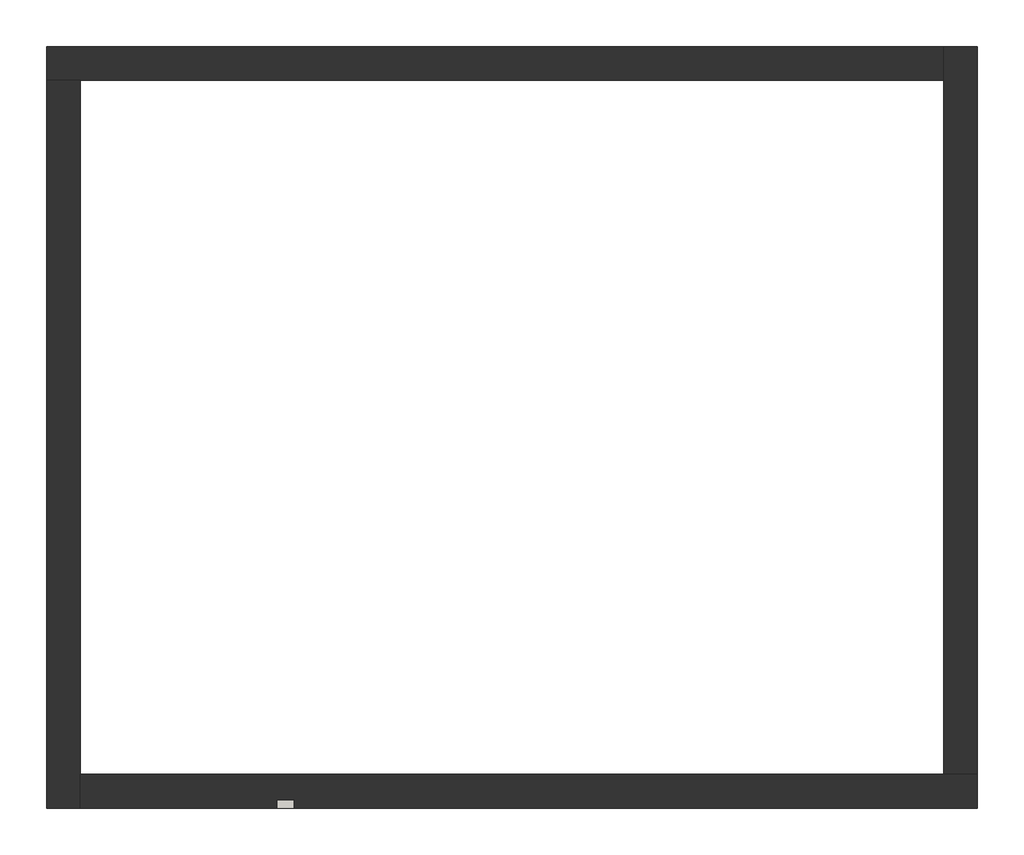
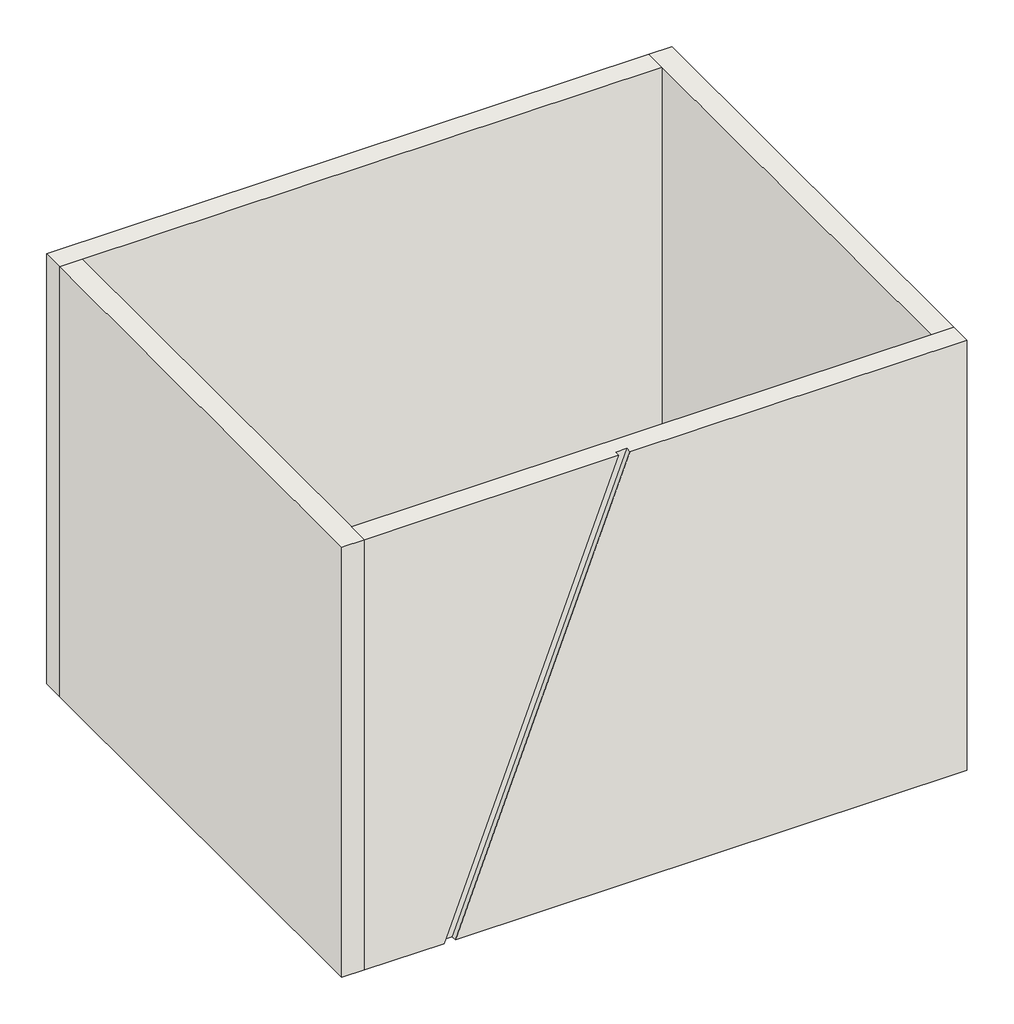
# One storey: 4 walls.
"""IFC4 building model written with IfcOpenShell, lengths in millimetres."""

from ifc_helpers import new_model, si_unit, origin, place, context, project, spatial, faceted_brep, element, save

model = new_model("IFC4")

# Units and contexts
model_context = context("Model", 3, world=origin())
ifc_project = project(units=[si_unit("LENGTHUNIT", "METRE", prefix="MILLI")], contexts=[model_context])

# Site, building, storey
site = spatial("IfcSite", under=ifc_project)
building = spatial("IfcBuilding", under=site)
storey = spatial("IfcBuildingStorey", under=building, Name="樓層 1", Elevation=0.0)

# Walls
placement = place(None, origin())
element("IfcWall", 1, ObjectType="牆 200mm", at=placement, inside=storey, context=model_context, shape_type="Brep", body=[
    faceted_brep([(-5808.8557035, 3636.7937541, 0.0), (-5608.8557035, 3636.7937541, 0.0), (-508.8557035, 3636.7937541, 0.0), (-508.8557035, 3636.7937541, 4000.0), (-5608.8557035, 3636.7937541, 4000.0), (-5808.8557035, 3636.7937541, 4000.0), (-5808.8557035, 3836.7937541, 0.0), (-5808.8557035, 3836.7937541, 4000.0), (-508.8557035, 3836.7937541, 4000.0), (-508.8557035, 3836.7937541, 0.0)], [[[0, 1, 2, 3, 4, 5]], [[6, 7, 8, 9]], [[2, 1, 0, 6, 9]], [[5, 4, 3, 8, 7]], [[0, 5, 7, 6]], [[3, 2, 9, 8]]]),
])
element("IfcWall", 2, ObjectType="牆 200mm", at=placement, inside=storey, context=model_context, shape_type="Brep", body=[
    faceted_brep([(-5608.8557035, -663.2062459, 0.0), (-5608.8557035, -463.2062459, 0.0), (-5608.8557035, 3636.7937541, 0.0), (-5608.8557035, 3636.7937541, 4000.0), (-5608.8557035, -463.2062459, 4000.0), (-5608.8557035, -663.2062459, 4000.0), (-5808.8557035, -663.2062459, 0.0), (-5808.8557035, -663.2062459, 4000.0), (-5808.8557035, 3636.7937541, 4000.0), (-5808.8557035, 3636.7937541, 0.0)], [[[0, 1, 2, 3, 4, 5]], [[6, 7, 8, 9]], [[2, 1, 0, 6, 9]], [[5, 4, 3, 8, 7]], [[0, 5, 7, 6]], [[3, 2, 9, 8]]]),
])
element("IfcWall", 3, ObjectType="牆 200mm", at=placement, inside=storey, context=model_context, shape_type="Brep", body=[
    faceted_brep([(-308.8557035, -463.2062459, 0.0), (-508.8557035, -463.2062459, 0.0), (-5608.8557035, -463.2062459, 0.0), (-5608.8557035, -463.2062459, 4000.0), (-508.8557035, -463.2062459, 4000.0), (-308.8557035, -463.2062459, 4000.0), (-308.8557035, -663.2062459, 0.0), (-308.8557035, -663.2062459, 4000.0), (-3273.3995633, -663.2062459, 4000.0), (-4808.8557035, -663.2062459, 0.0), (-5608.8557035, -663.2062459, 4000.0), (-5608.8557035, -663.2062459, 0.0), (-4908.8557035, -663.2062459, 0.0), (-3373.3995633, -663.2062459, 4000.0), (-4808.8557035, -613.2062459, 0.0), (-4908.8557035, -613.2062459, 0.0), (-3373.3995633, -613.2062459, 4000.0), (-3273.3995633, -613.2062459, 4000.0)], [[[0, 1, 2, 3, 4, 5]], [[6, 7, 8, 9]], [[10, 11, 12, 13]], [[2, 1, 0, 6, 9, 14, 15, 12, 11]], [[5, 4, 3, 10, 13, 16, 17, 8, 7]], [[0, 5, 7, 6]], [[3, 2, 11, 10]], [[16, 15, 14, 17]], [[17, 14, 9, 8]], [[15, 16, 13, 12]]]),
])
element("IfcWall", 4, ObjectType="牆 200mm", at=placement, inside=storey, context=model_context, shape_type="Brep", body=[
    faceted_brep([(-508.8557035, 3836.7937541, 0.0), (-508.8557035, 3636.7937541, 0.0), (-508.8557035, -463.2062459, 0.0), (-508.8557035, -463.2062459, 4000.0), (-508.8557035, 3636.7937541, 4000.0), (-508.8557035, 3836.7937541, 4000.0), (-308.8557035, 3836.7937541, 0.0), (-308.8557035, 3836.7937541, 4000.0), (-308.8557035, -463.2062459, 4000.0), (-308.8557035, -463.2062459, 0.0)], [[[0, 1, 2, 3, 4, 5]], [[6, 7, 8, 9]], [[2, 1, 0, 6, 9]], [[5, 4, 3, 8, 7]], [[0, 5, 7, 6]], [[3, 2, 9, 8]]]),
])

save(model, "model.ifc")
